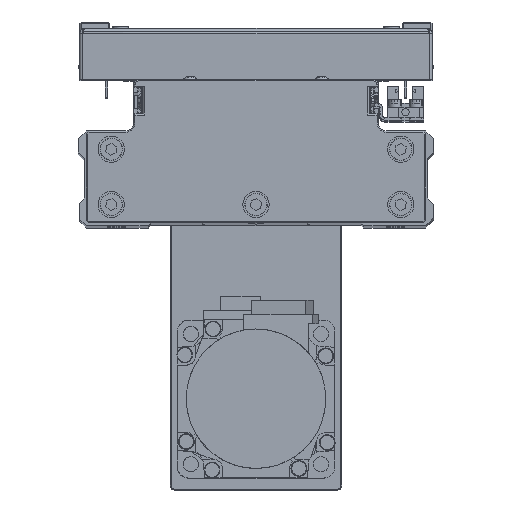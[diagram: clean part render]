
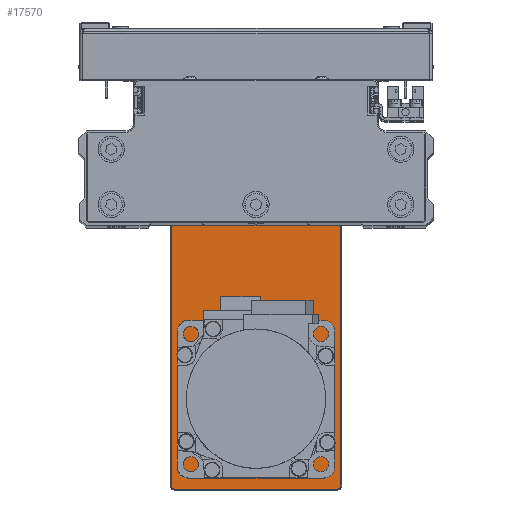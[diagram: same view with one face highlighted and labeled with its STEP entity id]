
A CAD part, top view. The second image highlights one B-rep face of the part: STEP entity #17570.
In plain terms, the highlighted planar face has unit normal (0, 0, 1) as drawn and (0, 1, 0) by its records, which use the part's own axes.
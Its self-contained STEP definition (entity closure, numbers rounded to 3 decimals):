
#50 = CIRCLE ( 'NONE', #24908, 15. ) ;
#102 = DIRECTION ( 'NONE',  ( 0., 0., -1. ) ) ;
#714 = DIRECTION ( 'NONE',  ( 0., 0., 1. ) ) ;
#914 = ORIENTED_EDGE ( 'NONE', *, *, #24550, .T. ) ;
#950 = DIRECTION ( 'NONE',  ( 0., 0., 1. ) ) ;
#1022 = EDGE_CURVE ( 'NONE', #4475, #30291, #37371, .T. ) ;
#1129 = EDGE_CURVE ( 'NONE', #29277, #16935, #2632, .T. ) ;
#1594 = CARTESIAN_POINT ( 'NONE',  ( 84.7, 6., 0. ) ) ;
#2632 = CIRCLE ( 'NONE', #33138, 10.3 ) ;
#2665 = DIRECTION ( 'NONE',  ( 0., 0., 1. ) ) ;
#4319 = VERTEX_POINT ( 'NONE', #29074 ) ;
#4414 = EDGE_CURVE ( 'NONE', #30291, #4475, #50, .T. ) ;
#4475 = VERTEX_POINT ( 'NONE', #23259 ) ;
#4584 = VERTEX_POINT ( 'NONE', #27495 ) ;
#4733 = ORIENTED_EDGE ( 'NONE', *, *, #28111, .T. ) ;
#4748 = DIRECTION ( 'NONE',  ( 0., 1., 0. ) ) ;
#5258 = DIRECTION ( 'NONE',  ( 1., 0., 0. ) ) ;
#5332 = EDGE_CURVE ( 'NONE', #33799, #13560, #16322, .T. ) ;
#5419 = ORIENTED_EDGE ( 'NONE', *, *, #19795, .T. ) ;
#5983 = FACE_BOUND ( 'NONE', #19319, .T. ) ;
#6729 = CIRCLE ( 'NONE', #31584, 1.525 ) ;
#6778 = ORIENTED_EDGE ( 'NONE', *, *, #19937, .T. ) ;
#7135 = VERTEX_POINT ( 'NONE', #23145 ) ;
#7324 = DIRECTION ( 'NONE',  ( 0., 1., 0. ) ) ;
#7364 = CARTESIAN_POINT ( 'NONE',  ( 0., 6., -32.2 ) ) ;
#7753 = AXIS2_PLACEMENT_3D ( 'NONE', #39940, #9545, #23076 ) ;
#7838 = VECTOR ( 'NONE', #15153, 1000. ) ;
#7986 = VERTEX_POINT ( 'NONE', #12773 ) ;
#8576 = EDGE_CURVE ( 'NONE', #19849, #4319, #15171, .T. ) ;
#9186 = AXIS2_PLACEMENT_3D ( 'NONE', #41163, #10763, #24298 ) ;
#9351 = CARTESIAN_POINT ( 'NONE',  ( 75.992, 6., -10.076 ) ) ;
#9545 = DIRECTION ( 'NONE',  ( 0., -1., 0. ) ) ;
#9675 = VERTEX_POINT ( 'NONE', #27257 ) ;
#9749 = CIRCLE ( 'NONE', #40217, 1.525 ) ;
#9855 = VERTEX_POINT ( 'NONE', #25241 ) ;
#10491 = CARTESIAN_POINT ( 'NONE',  ( 61.051, 6., 23.492 ) ) ;
#10626 = CIRCLE ( 'NONE', #16282, 1.2 ) ;
#10672 = AXIS2_PLACEMENT_3D ( 'NONE', #37733, #7324, #20866 ) ;
#10763 = DIRECTION ( 'NONE',  ( 0., 1., 0. ) ) ;
#10888 = ORIENTED_EDGE ( 'NONE', *, *, #43339, .T. ) ;
#11248 = DIRECTION ( 'NONE',  ( 0., 1., 0. ) ) ;
#11297 = EDGE_CURVE ( 'NONE', #16935, #29277, #16281, .T. ) ;
#11358 = ORIENTED_EDGE ( 'NONE', *, *, #1129, .T. ) ;
#11605 = CIRCLE ( 'NONE', #36405, 1.525 ) ;
#11617 = CARTESIAN_POINT ( 'NONE',  ( 52.5, 6., -10.3 ) ) ;
#11940 = EDGE_CURVE ( 'NONE', #4584, #9675, #32025, .T. ) ;
#12095 = VERTEX_POINT ( 'NONE', #9351 ) ;
#12288 = CARTESIAN_POINT ( 'NONE',  ( 52.5, 6., 0. ) ) ;
#12589 = ORIENTED_EDGE ( 'NONE', *, *, #21797, .F. ) ;
#12615 = DIRECTION ( 'NONE',  ( 0., 0., 1. ) ) ;
#12773 = CARTESIAN_POINT ( 'NONE',  ( 83.5, 6., -32.2 ) ) ;
#12854 = FACE_BOUND ( 'NONE', #37925, .T. ) ;
#13512 = ORIENTED_EDGE ( 'NONE', *, *, #11297, .T. ) ;
#13514 = CARTESIAN_POINT ( 'NONE',  ( 75.992, 6., -7.026 ) ) ;
#13560 = VERTEX_POINT ( 'NONE', #43372 ) ;
#13999 = EDGE_CURVE ( 'NONE', #13560, #9855, #19556, .T. ) ;
#14038 = ORIENTED_EDGE ( 'NONE', *, *, #32170, .F. ) ;
#14133 = CARTESIAN_POINT ( 'NONE',  ( 75.992, 6., -8.551 ) ) ;
#15153 = DIRECTION ( 'NONE',  ( 0., 0., -1. ) ) ;
#15171 = CIRCLE ( 'NONE', #39961, 1.525 ) ;
#15197 = CARTESIAN_POINT ( 'NONE',  ( -50.5, 6., 0. ) ) ;
#16188 = FACE_BOUND ( 'NONE', #22963, .T. ) ;
#16281 = CIRCLE ( 'NONE', #41103, 10.3 ) ;
#16282 = AXIS2_PLACEMENT_3D ( 'NONE', #35181, #4748, #18287 ) ;
#16322 = CIRCLE ( 'NONE', #41137, 1.2 ) ;
#16935 = VERTEX_POINT ( 'NONE', #11617 ) ;
#16979 = CARTESIAN_POINT ( 'NONE',  ( 52.5, 6., 0. ) ) ;
#16991 = CARTESIAN_POINT ( 'NONE',  ( 61.051, 6., 23.492 ) ) ;
#17276 = ORIENTED_EDGE ( 'NONE', *, *, #13999, .T. ) ;
#17570 = ADVANCED_FACE ( 'NONE', ( #5983, #16188, #29740, #43277, #12854 ), #26411, .F. ) ;
#17839 = CARTESIAN_POINT ( 'NONE',  ( 75.992, 6., -8.551 ) ) ;
#18127 = VERTEX_POINT ( 'NONE', #30796 ) ;
#18252 = AXIS2_PLACEMENT_3D ( 'NONE', #15197, #28744, #42273 ) ;
#18287 = DIRECTION ( 'NONE',  ( 0., 0., -1. ) ) ;
#18550 = VECTOR ( 'NONE', #2665, 1000. ) ;
#19319 = EDGE_LOOP ( 'NONE', ( #14038, #20728 ) ) ;
#19556 = LINE ( 'NONE', #33105, #18550 ) ;
#19795 = EDGE_CURVE ( 'NONE', #9855, #7135, #28358, .T. ) ;
#19849 = VERTEX_POINT ( 'NONE', #27874 ) ;
#19937 = EDGE_CURVE ( 'NONE', #9675, #7986, #10626, .T. ) ;
#20728 = ORIENTED_EDGE ( 'NONE', *, *, #8576, .F. ) ;
#20866 = DIRECTION ( 'NONE',  ( 0., 0., -1. ) ) ;
#20907 = DIRECTION ( 'NONE',  ( -1., 0., 0. ) ) ;
#21332 = CARTESIAN_POINT ( 'NONE',  ( 52.5, 6., 10.3 ) ) ;
#21617 = ORIENTED_EDGE ( 'NONE', *, *, #1022, .F. ) ;
#21797 = EDGE_CURVE ( 'NONE', #29640, #12095, #11605, .T. ) ;
#22137 = LINE ( 'NONE', #35681, #39962 ) ;
#22963 = EDGE_LOOP ( 'NONE', ( #12589, #41165 ) ) ;
#23076 = DIRECTION ( 'NONE',  ( 0., 0., -1. ) ) ;
#23145 = CARTESIAN_POINT ( 'NONE',  ( -83.5, 6., 32.2 ) ) ;
#23259 = CARTESIAN_POINT ( 'NONE',  ( -50.5, 6., 15. ) ) ;
#23823 = CARTESIAN_POINT ( 'NONE',  ( -83.5, 6., -32.2 ) ) ;
#24033 = DIRECTION ( 'NONE',  ( 0., 1., 0. ) ) ;
#24298 = DIRECTION ( 'NONE',  ( 0., 0., -1. ) ) ;
#24550 = EDGE_CURVE ( 'NONE', #7135, #18127, #22137, .T. ) ;
#24789 = DIRECTION ( 'NONE',  ( 0., 0., -1. ) ) ;
#24908 = AXIS2_PLACEMENT_3D ( 'NONE', #29511, #43043, #12615 ) ;
#24922 = ORIENTED_EDGE ( 'NONE', *, *, #11940, .T. ) ;
#25241 = CARTESIAN_POINT ( 'NONE',  ( -84.7, 6., 31. ) ) ;
#25841 = DIRECTION ( 'NONE',  ( 0., -1., 0. ) ) ;
#26411 = PLANE ( 'NONE',  #7753 ) ;
#27018 = ORIENTED_EDGE ( 'NONE', *, *, #4414, .F. ) ;
#27257 = CARTESIAN_POINT ( 'NONE',  ( 84.7, 6., -31. ) ) ;
#27495 = CARTESIAN_POINT ( 'NONE',  ( 84.7, 6., 31. ) ) ;
#27685 = DIRECTION ( 'NONE',  ( 0., 1., 0. ) ) ;
#27874 = CARTESIAN_POINT ( 'NONE',  ( 61.051, 6., 21.967 ) ) ;
#28111 = EDGE_CURVE ( 'NONE', #7986, #33799, #37767, .T. ) ;
#28358 = CIRCLE ( 'NONE', #9186, 1.2 ) ;
#28744 = DIRECTION ( 'NONE',  ( 0., 1., 0. ) ) ;
#28800 = EDGE_CURVE ( 'NONE', #12095, #29640, #6729, .T. ) ;
#29074 = CARTESIAN_POINT ( 'NONE',  ( 61.051, 6., 25.017 ) ) ;
#29277 = VERTEX_POINT ( 'NONE', #21332 ) ;
#29511 = CARTESIAN_POINT ( 'NONE',  ( -50.5, 6., 0. ) ) ;
#29640 = VERTEX_POINT ( 'NONE', #13514 ) ;
#29740 = FACE_BOUND ( 'NONE', #35451, .T. ) ;
#29815 = CIRCLE ( 'NONE', #10672, 1.2 ) ;
#30291 = VERTEX_POINT ( 'NONE', #40419 ) ;
#30531 = DIRECTION ( 'NONE',  ( 0., -1., 0. ) ) ;
#30541 = DIRECTION ( 'NONE',  ( 0., 1., 0. ) ) ;
#30796 = CARTESIAN_POINT ( 'NONE',  ( 83.5, 6., 32.2 ) ) ;
#30841 = ORIENTED_EDGE ( 'NONE', *, *, #5332, .T. ) ;
#31391 = DIRECTION ( 'NONE',  ( 0., 1., 0. ) ) ;
#31584 = AXIS2_PLACEMENT_3D ( 'NONE', #17839, #31391, #950 ) ;
#32025 = LINE ( 'NONE', #1594, #7838 ) ;
#32170 = EDGE_CURVE ( 'NONE', #4319, #19849, #9749, .T. ) ;
#33105 = CARTESIAN_POINT ( 'NONE',  ( -84.7, 6., 0. ) ) ;
#33138 = AXIS2_PLACEMENT_3D ( 'NONE', #12288, #25841, #39375 ) ;
#33799 = VERTEX_POINT ( 'NONE', #23823 ) ;
#34373 = VECTOR ( 'NONE', #20907, 1000. ) ;
#35181 = CARTESIAN_POINT ( 'NONE',  ( 83.5, 6., -31. ) ) ;
#35451 = EDGE_LOOP ( 'NONE', ( #11358, #13512 ) ) ;
#35681 = CARTESIAN_POINT ( 'NONE',  ( 0., 6., 32.2 ) ) ;
#36405 = AXIS2_PLACEMENT_3D ( 'NONE', #14133, #27685, #41211 ) ;
#37371 = CIRCLE ( 'NONE', #18252, 15. ) ;
#37571 = DIRECTION ( 'NONE',  ( 0., 0., 1. ) ) ;
#37733 = CARTESIAN_POINT ( 'NONE',  ( 83.5, 6., 31. ) ) ;
#37767 = LINE ( 'NONE', #7364, #34373 ) ;
#37925 = EDGE_LOOP ( 'NONE', ( #21617, #27018 ) ) ;
#39375 = DIRECTION ( 'NONE',  ( 0., 0., -1. ) ) ;
#39940 = CARTESIAN_POINT ( 'NONE',  ( 0., 6., 0. ) ) ;
#39961 = AXIS2_PLACEMENT_3D ( 'NONE', #10491, #24033, #37571 ) ;
#39962 = VECTOR ( 'NONE', #5258, 1000. ) ;
#40217 = AXIS2_PLACEMENT_3D ( 'NONE', #16991, #30541, #714 ) ;
#40419 = CARTESIAN_POINT ( 'NONE',  ( -50.5, 6., -15. ) ) ;
#41103 = AXIS2_PLACEMENT_3D ( 'NONE', #16979, #30531, #102 ) ;
#41137 = AXIS2_PLACEMENT_3D ( 'NONE', #41659, #11248, #24789 ) ;
#41163 = CARTESIAN_POINT ( 'NONE',  ( -83.5, 6., 31. ) ) ;
#41165 = ORIENTED_EDGE ( 'NONE', *, *, #28800, .F. ) ;
#41211 = DIRECTION ( 'NONE',  ( 0., 0., 1. ) ) ;
#41659 = CARTESIAN_POINT ( 'NONE',  ( -83.5, 6., -31. ) ) ;
#42273 = DIRECTION ( 'NONE',  ( 0., 0., 1. ) ) ;
#43043 = DIRECTION ( 'NONE',  ( 0., 1., 0. ) ) ;
#43201 = EDGE_LOOP ( 'NONE', ( #6778, #4733, #30841, #17276, #5419, #914, #10888, #24922 ) ) ;
#43277 = FACE_OUTER_BOUND ( 'NONE', #43201, .T. ) ;
#43339 = EDGE_CURVE ( 'NONE', #18127, #4584, #29815, .T. ) ;
#43372 = CARTESIAN_POINT ( 'NONE',  ( -84.7, 6., -31. ) ) ;
